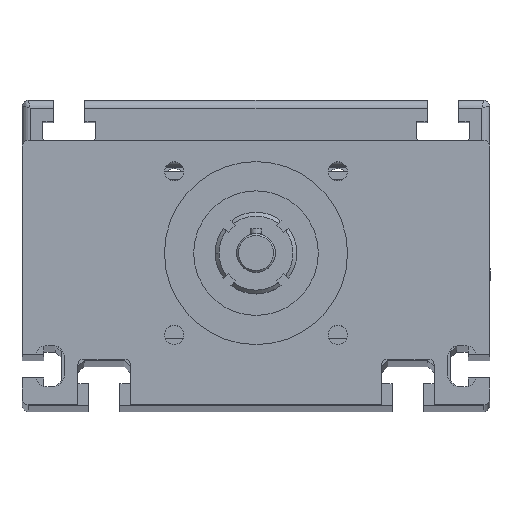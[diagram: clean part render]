
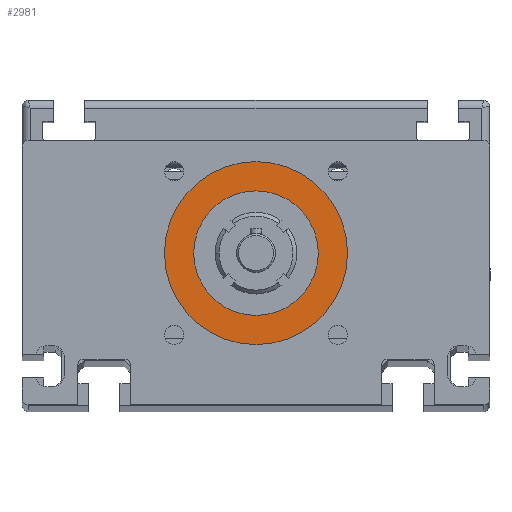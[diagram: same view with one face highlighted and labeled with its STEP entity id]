
A CAD part, top view. The second image highlights one B-rep face of the part: STEP entity #2981.
In plain terms, the highlighted planar face has unit normal (0, 0, 1) as drawn and (1, 0, 0) by its records, which use the part's own axes.
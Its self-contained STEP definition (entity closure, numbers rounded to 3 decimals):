
#584 = ORIENTED_EDGE ( 'NONE', *, *, #14145, .T. ) ;
#742 = CARTESIAN_POINT ( 'NONE',  ( 13., 0., 0. ) ) ;
#1527 = EDGE_LOOP ( 'NONE', ( #8676, #11517 ) ) ;
#1898 = CARTESIAN_POINT ( 'NONE',  ( 13., 0., 0. ) ) ;
#2032 = CARTESIAN_POINT ( 'NONE',  ( 13., 0., -23.5 ) ) ;
#2081 = VERTEX_POINT ( 'NONE', #2897 ) ;
#2839 = ORIENTED_EDGE ( 'NONE', *, *, #3664, .T. ) ;
#2862 = DIRECTION ( 'NONE',  ( 1., 0., 0. ) ) ;
#2897 = CARTESIAN_POINT ( 'NONE',  ( 13., 0., -16. ) ) ;
#2976 = FACE_BOUND ( 'NONE', #1527, .T. ) ;
#2981 = ADVANCED_FACE ( 'NONE', ( #11707, #2976 ), #11777, .T. ) ;
#3201 = VERTEX_POINT ( 'NONE', #2032 ) ;
#3664 = EDGE_CURVE ( 'NONE', #3201, #8885, #8028, .T. ) ;
#3955 = DIRECTION ( 'NONE',  ( 1., 0., 0. ) ) ;
#4874 = AXIS2_PLACEMENT_3D ( 'NONE', #11400, #3955, #5197 ) ;
#4999 = AXIS2_PLACEMENT_3D ( 'NONE', #1898, #12922, #6308 ) ;
#5156 = DIRECTION ( 'NONE',  ( 0., 0., -1. ) ) ;
#5197 = DIRECTION ( 'NONE',  ( 0., 0., -1. ) ) ;
#5892 = CARTESIAN_POINT ( 'NONE',  ( 13., 0., 16. ) ) ;
#6308 = DIRECTION ( 'NONE',  ( 0., 0., -1. ) ) ;
#6535 = AXIS2_PLACEMENT_3D ( 'NONE', #14004, #9547, #12730 ) ;
#6655 = CIRCLE ( 'NONE', #13583, 16. ) ;
#7425 = DIRECTION ( 'NONE',  ( 0., 0., -1. ) ) ;
#8028 = CIRCLE ( 'NONE', #8477, 23.5 ) ;
#8431 = EDGE_CURVE ( 'NONE', #2081, #11940, #6655, .T. ) ;
#8477 = AXIS2_PLACEMENT_3D ( 'NONE', #9624, #2862, #7425 ) ;
#8676 = ORIENTED_EDGE ( 'NONE', *, *, #11773, .F. ) ;
#8885 = VERTEX_POINT ( 'NONE', #10686 ) ;
#9547 = DIRECTION ( 'NONE',  ( 1., 0., 0. ) ) ;
#9624 = CARTESIAN_POINT ( 'NONE',  ( 13., 0., 0. ) ) ;
#9896 = CIRCLE ( 'NONE', #4874, 23.5 ) ;
#10665 = CIRCLE ( 'NONE', #6535, 16. ) ;
#10686 = CARTESIAN_POINT ( 'NONE',  ( 13., 0., 23.5 ) ) ;
#11400 = CARTESIAN_POINT ( 'NONE',  ( 13., 0., 0. ) ) ;
#11483 = DIRECTION ( 'NONE',  ( 1., 0., 0. ) ) ;
#11517 = ORIENTED_EDGE ( 'NONE', *, *, #8431, .F. ) ;
#11707 = FACE_OUTER_BOUND ( 'NONE', #12836, .T. ) ;
#11773 = EDGE_CURVE ( 'NONE', #11940, #2081, #10665, .T. ) ;
#11777 = PLANE ( 'NONE',  #4999 ) ;
#11940 = VERTEX_POINT ( 'NONE', #5892 ) ;
#12730 = DIRECTION ( 'NONE',  ( 0., 0., -1. ) ) ;
#12836 = EDGE_LOOP ( 'NONE', ( #2839, #584 ) ) ;
#12922 = DIRECTION ( 'NONE',  ( 1., 0., 0. ) ) ;
#13583 = AXIS2_PLACEMENT_3D ( 'NONE', #742, #11483, #5156 ) ;
#14004 = CARTESIAN_POINT ( 'NONE',  ( 13., 0., 0. ) ) ;
#14145 = EDGE_CURVE ( 'NONE', #8885, #3201, #9896, .T. ) ;
